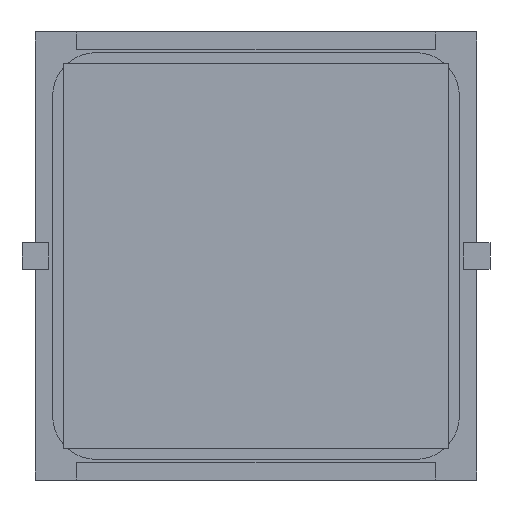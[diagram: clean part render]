
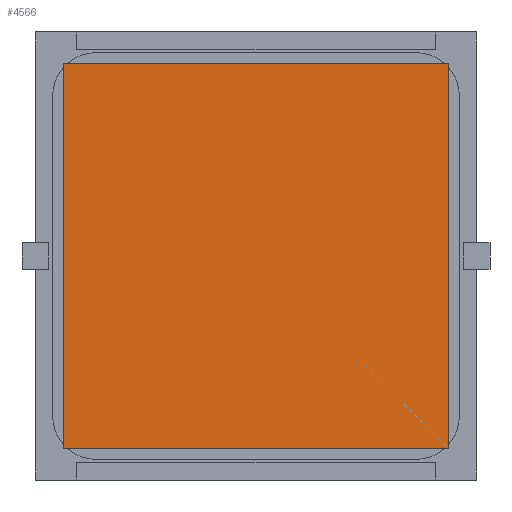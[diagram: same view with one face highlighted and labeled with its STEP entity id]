
A CAD part, front view. The second image highlights one B-rep face of the part: STEP entity #4566.
In plain terms, the highlighted planar face has unit normal (0, -1, 0).
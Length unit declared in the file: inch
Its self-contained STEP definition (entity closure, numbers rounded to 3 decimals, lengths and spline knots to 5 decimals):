
#311 = LINE ( 'NONE', #464, #4166 ) ;
#464 = CARTESIAN_POINT ( 'NONE',  ( -0.57087, -0.005, -0.57087 ) ) ;
#621 = DIRECTION ( 'NONE',  ( 0., 0., 1. ) ) ;
#695 = VERTEX_POINT ( 'NONE', #2577 ) ;
#770 = EDGE_CURVE ( 'NONE', #4092, #695, #4827, .T. ) ;
#792 = CARTESIAN_POINT ( 'NONE',  ( -0.57087, -0.005, -0.57087 ) ) ;
#1069 = ORIENTED_EDGE ( 'NONE', *, *, #5330, .F. ) ;
#1753 = DIRECTION ( 'NONE',  ( 0., 0., 1. ) ) ;
#2199 = DIRECTION ( 'NONE',  ( 1., 0., 0. ) ) ;
#2277 = VECTOR ( 'NONE', #5075, 39.37008 ) ;
#2426 = CARTESIAN_POINT ( 'NONE',  ( -0.57087, -0.005, -0.57087 ) ) ;
#2467 = DIRECTION ( 'NONE',  ( 0., 1., 0. ) ) ;
#2512 = AXIS2_PLACEMENT_3D ( 'NONE', #6491, #2467, #621 ) ;
#2577 = CARTESIAN_POINT ( 'NONE',  ( 0.57087, -0.005, -0.57087 ) ) ;
#3507 = LINE ( 'NONE', #6133, #7880 ) ;
#3519 = VECTOR ( 'NONE', #5439, 39.37008 ) ;
#3532 = CARTESIAN_POINT ( 'NONE',  ( -0.57087, -0.005, 0.57087 ) ) ;
#4092 = VERTEX_POINT ( 'NONE', #4735 ) ;
#4166 = VECTOR ( 'NONE', #1753, 39.37008 ) ;
#4566 = ADVANCED_FACE ( 'NONE', ( #7135 ), #5260, .F. ) ;
#4735 = CARTESIAN_POINT ( 'NONE',  ( 0.57087, -0.005, 0.57087 ) ) ;
#4811 = ORIENTED_EDGE ( 'NONE', *, *, #8339, .F. ) ;
#4827 = LINE ( 'NONE', #6962, #3519 ) ;
#5075 = DIRECTION ( 'NONE',  ( -1., 0., 0. ) ) ;
#5260 = PLANE ( 'NONE',  #2512 ) ;
#5330 = EDGE_CURVE ( 'NONE', #695, #5486, #6371, .T. ) ;
#5439 = DIRECTION ( 'NONE',  ( 0., 0., -1. ) ) ;
#5486 = VERTEX_POINT ( 'NONE', #792 ) ;
#5875 = ORIENTED_EDGE ( 'NONE', *, *, #770, .F. ) ;
#6133 = CARTESIAN_POINT ( 'NONE',  ( -0.57087, -0.005, 0.57087 ) ) ;
#6228 = VERTEX_POINT ( 'NONE', #3532 ) ;
#6371 = LINE ( 'NONE', #2426, #2277 ) ;
#6491 = CARTESIAN_POINT ( 'NONE',  ( -0.57087, -0.005, 0.57087 ) ) ;
#6787 = ORIENTED_EDGE ( 'NONE', *, *, #7164, .F. ) ;
#6962 = CARTESIAN_POINT ( 'NONE',  ( 0.57087, -0.005, -0.57087 ) ) ;
#7135 = FACE_OUTER_BOUND ( 'NONE', #8075, .T. ) ;
#7164 = EDGE_CURVE ( 'NONE', #6228, #4092, #3507, .T. ) ;
#7880 = VECTOR ( 'NONE', #2199, 39.37008 ) ;
#8075 = EDGE_LOOP ( 'NONE', ( #4811, #1069, #5875, #6787 ) ) ;
#8339 = EDGE_CURVE ( 'NONE', #5486, #6228, #311, .T. ) ;
